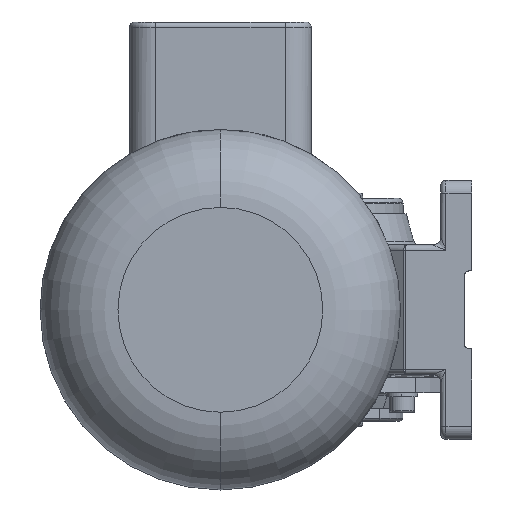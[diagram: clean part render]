
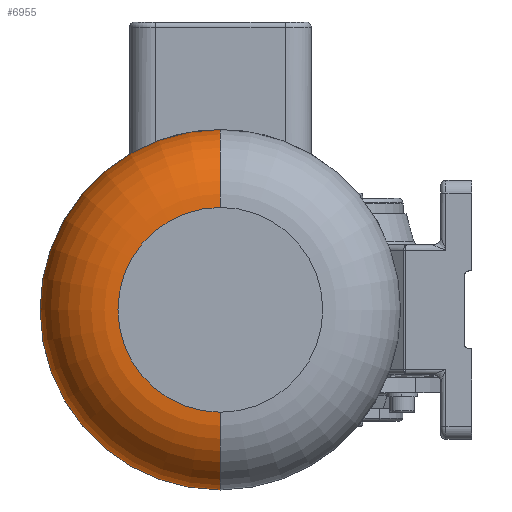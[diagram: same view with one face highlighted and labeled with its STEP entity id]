
A CAD part, left-side view. The second image highlights one B-rep face of the part: STEP entity #6955.
In plain terms, the highlighted toroidal (fillet/blend) face has major radius 39.5 mm and minor radius 30 mm.
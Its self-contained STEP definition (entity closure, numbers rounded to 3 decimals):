
#24 = DIRECTION ( 'NONE',  ( 1., 0., 0. ) ) ;
#798 = DIRECTION ( 'NONE',  ( 0., 1., 0. ) ) ;
#1783 = ORIENTED_EDGE ( 'NONE', *, *, #17982, .T. ) ;
#2357 = AXIS2_PLACEMENT_3D ( 'NONE', #19172, #15536, #11827 ) ;
#3181 = DIRECTION ( 'NONE',  ( 0., -1., 0. ) ) ;
#4390 = EDGE_LOOP ( 'NONE', ( #14037, #19674, #1783, #12652 ) ) ;
#4656 = DIRECTION ( 'NONE',  ( -1., 0., 0. ) ) ;
#6312 = DIRECTION ( 'NONE',  ( 0., 0., 1. ) ) ;
#6955 = ADVANCED_FACE ( 'NONE', ( #14079 ), #20073, .T. ) ;
#7311 = AXIS2_PLACEMENT_3D ( 'NONE', #14768, #798, #6312 ) ;
#7446 = CARTESIAN_POINT ( 'NONE',  ( -329.464, 51.084, 0. ) ) ;
#7742 = AXIS2_PLACEMENT_3D ( 'NONE', #18217, #4656, #15026 ) ;
#9093 = CIRCLE ( 'NONE', #7311, 30. ) ;
#10083 = DIRECTION ( 'NONE',  ( 0., 0., -1. ) ) ;
#10628 = CARTESIAN_POINT ( 'NONE',  ( -359.464, 51.084, -39.5 ) ) ;
#10784 = VERTEX_POINT ( 'NONE', #20715 ) ;
#11021 = EDGE_CURVE ( 'NONE', #19505, #10784, #19998, .T. ) ;
#11827 = DIRECTION ( 'NONE',  ( 0., 0., 1. ) ) ;
#12652 = ORIENTED_EDGE ( 'NONE', *, *, #20501, .F. ) ;
#14037 = ORIENTED_EDGE ( 'NONE', *, *, #11021, .F. ) ;
#14079 = FACE_OUTER_BOUND ( 'NONE', #4390, .T. ) ;
#14252 = AXIS2_PLACEMENT_3D ( 'NONE', #7446, #24, #19537 ) ;
#14768 = CARTESIAN_POINT ( 'NONE',  ( -329.464, 51.084, 39.5 ) ) ;
#15026 = DIRECTION ( 'NONE',  ( 0., 0., 1. ) ) ;
#15216 = EDGE_CURVE ( 'NONE', #20716, #19505, #20024, .T. ) ;
#15536 = DIRECTION ( 'NONE',  ( 1., 0., 0. ) ) ;
#16476 = CIRCLE ( 'NONE', #2357, 69.5 ) ;
#17140 = VERTEX_POINT ( 'NONE', #18152 ) ;
#17982 = EDGE_CURVE ( 'NONE', #20716, #17140, #9093, .T. ) ;
#18152 = CARTESIAN_POINT ( 'NONE',  ( -329.464, 51.084, 69.5 ) ) ;
#18217 = CARTESIAN_POINT ( 'NONE',  ( -359.464, 51.084, 0. ) ) ;
#18479 = CARTESIAN_POINT ( 'NONE',  ( -329.464, 51.084, -39.5 ) ) ;
#19172 = CARTESIAN_POINT ( 'NONE',  ( -329.464, 51.084, 0. ) ) ;
#19505 = VERTEX_POINT ( 'NONE', #10628 ) ;
#19537 = DIRECTION ( 'NONE',  ( 0., 0., 1. ) ) ;
#19674 = ORIENTED_EDGE ( 'NONE', *, *, #15216, .F. ) ;
#19940 = CARTESIAN_POINT ( 'NONE',  ( -359.464, 51.084, 39.5 ) ) ;
#19998 = CIRCLE ( 'NONE', #21399, 30. ) ;
#20024 = CIRCLE ( 'NONE', #7742, 39.5 ) ;
#20073 = TOROIDAL_SURFACE ( 'NONE', #14252, 39.5, 30. ) ;
#20501 = EDGE_CURVE ( 'NONE', #10784, #17140, #16476, .T. ) ;
#20715 = CARTESIAN_POINT ( 'NONE',  ( -329.464, 51.084, -69.5 ) ) ;
#20716 = VERTEX_POINT ( 'NONE', #19940 ) ;
#21399 = AXIS2_PLACEMENT_3D ( 'NONE', #18479, #3181, #10083 ) ;
